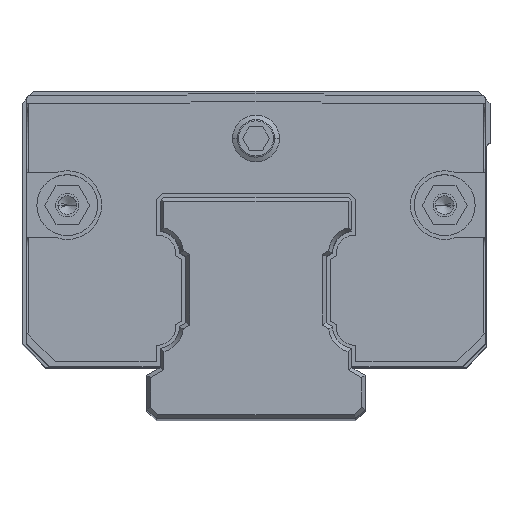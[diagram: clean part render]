
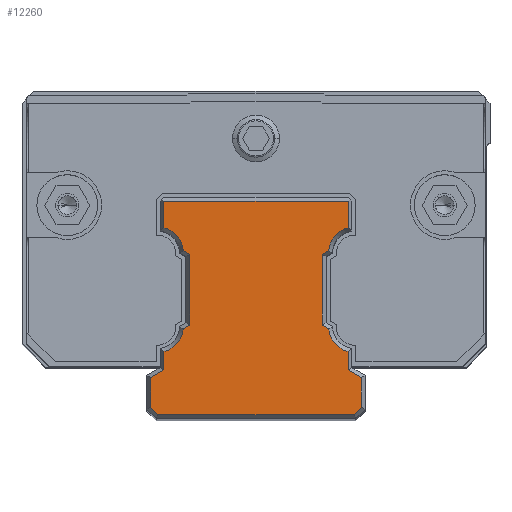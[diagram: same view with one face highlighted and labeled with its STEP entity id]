
A CAD part, top view. The second image highlights one B-rep face of the part: STEP entity #12260.
In plain terms, the highlighted planar face has unit normal (0, 0, 1).
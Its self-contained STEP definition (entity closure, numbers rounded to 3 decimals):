
#11574=DIRECTION('',(-1.,0.,0.));
#11575=VECTOR('',#11574,23.6);
#11576=CARTESIAN_POINT('',(11.8,11.35,78.85));
#11577=LINE('',#11576,#11575);
#11578=DIRECTION('',(0.,1.,0.));
#11579=VECTOR('',#11578,3.409);
#11580=CARTESIAN_POINT('',(11.8,7.941,78.85));
#11581=LINE('',#11580,#11579);
#11582=DIRECTION('',(0.866,0.5,0.));
#11583=VECTOR('',#11582,0.939);
#11584=CARTESIAN_POINT('',(8.5,4.539,78.85));
#11585=LINE('',#11584,#11583);
#11586=DIRECTION('',(0.,1.,0.));
#11587=VECTOR('',#11586,9.077);
#11588=CARTESIAN_POINT('',(8.5,-4.539,78.85));
#11589=LINE('',#11588,#11587);
#11590=DIRECTION('',(-0.866,0.5,0.));
#11591=VECTOR('',#11590,0.939);
#11592=CARTESIAN_POINT('',(9.313,-5.008,
78.85));
#11593=LINE('',#11592,#11591);
#11594=DIRECTION('',(0.,1.,0.));
#11595=VECTOR('',#11594,2.348);
#11596=CARTESIAN_POINT('',(11.8,-10.289,78.85));
#11597=LINE('',#11596,#11595);
#11598=DIRECTION('',(-0.866,0.5,0.));
#11599=VECTOR('',#11598,1.963);
#11600=CARTESIAN_POINT('',(13.5,-11.27,78.85));
#11601=LINE('',#11600,#11599);
#11602=DIRECTION('',(0.,1.,0.));
#11603=VECTOR('',#11602,3.823);
#11604=CARTESIAN_POINT('',(13.5,-15.093,78.85));
#11605=LINE('',#11604,#11603);
#11606=DIRECTION('',(0.707,0.707,0.));
#11607=VECTOR('',#11606,1.283);
#11608=CARTESIAN_POINT('',(12.593,-16.,78.85));
#11609=LINE('',#11608,#11607);
#11610=DIRECTION('',(1.,0.,0.));
#11611=VECTOR('',#11610,25.186);
#11612=CARTESIAN_POINT('',(-12.593,-16.,78.85));
#11613=LINE('',#11612,#11611);
#11614=DIRECTION('',(0.707,-0.707,0.));
#11615=VECTOR('',#11614,1.283);
#11616=CARTESIAN_POINT('',(-13.5,-15.093,78.85));
#11617=LINE('',#11616,#11615);
#11618=DIRECTION('',(0.,-1.,0.));
#11619=VECTOR('',#11618,3.823);
#11620=CARTESIAN_POINT('',(-13.5,-11.27,78.85));
#11621=LINE('',#11620,#11619);
#11622=DIRECTION('',(-0.866,-0.5,0.));
#11623=VECTOR('',#11622,1.963);
#11624=CARTESIAN_POINT('',(-11.8,-10.289,78.85));
#11625=LINE('',#11624,#11623);
#11626=DIRECTION('',(0.,-1.,0.));
#11627=VECTOR('',#11626,2.348);
#11628=CARTESIAN_POINT('',(-11.8,-7.941,
78.85));
#11629=LINE('',#11628,#11627);
#11630=DIRECTION('',(-0.866,-0.5,0.));
#11631=VECTOR('',#11630,0.939);
#11632=CARTESIAN_POINT('',(-8.5,-4.539,78.85));
#11633=LINE('',#11632,#11631);
#11634=DIRECTION('',(0.,-1.,0.));
#11635=VECTOR('',#11634,9.077);
#11636=CARTESIAN_POINT('',(-8.5,4.539,78.85));
#11637=LINE('',#11636,#11635);
#11638=DIRECTION('',(0.866,-0.5,0.));
#11639=VECTOR('',#11638,0.939);
#11640=CARTESIAN_POINT('',(-9.313,5.008,
78.85));
#11641=LINE('',#11640,#11639);
#11642=DIRECTION('',(0.,-1.,0.));
#11643=VECTOR('',#11642,3.409);
#11644=CARTESIAN_POINT('',(-11.8,11.35,78.85));
#11645=LINE('',#11644,#11643);
#11673=CARTESIAN_POINT('',(-12.658,4.692,78.85));
#11674=DIRECTION('',(0.,0.,-1.));
#11675=DIRECTION('',(0.255,0.967,0.));
#11676=AXIS2_PLACEMENT_3D('',#11673,#11674,#11675);
#11733=CARTESIAN_POINT('',(-12.658,-4.692,78.85));
#11734=DIRECTION('',(0.,0.,-1.));
#11735=DIRECTION('',(0.996,-0.094,0.));
#11736=AXIS2_PLACEMENT_3D('',#11733,#11734,#11735);
#11865=CARTESIAN_POINT('',(12.658,-4.692,78.85));
#11866=DIRECTION('',(0.,0.,-1.));
#11867=DIRECTION('',(-0.255,-0.967,0.));
#11868=AXIS2_PLACEMENT_3D('',#11865,#11866,#11867);
#11930=CARTESIAN_POINT('',(12.658,4.692,78.85));
#11931=DIRECTION('',(0.,0.,-1.));
#11932=DIRECTION('',(-0.996,0.094,0.));
#11933=AXIS2_PLACEMENT_3D('',#11930,#11931,#11932);
#12022=CARTESIAN_POINT('',(11.8,11.35,78.85));
#12023=CARTESIAN_POINT('',(-11.8,11.35,78.85));
#12024=VERTEX_POINT('',#12022);
#12025=VERTEX_POINT('',#12023);
#12030=CARTESIAN_POINT('',(11.8,7.941,78.85));
#12031=VERTEX_POINT('',#12030);
#12036=CARTESIAN_POINT('',(8.5,4.539,78.85));
#12037=CARTESIAN_POINT('',(9.313,5.008,78.85));
#12038=VERTEX_POINT('',#12036);
#12039=VERTEX_POINT('',#12037);
#12042=CARTESIAN_POINT('',(8.5,-4.539,78.85));
#12043=VERTEX_POINT('',#12042);
#12044=CARTESIAN_POINT('',(9.313,-5.008,
78.85));
#12045=VERTEX_POINT('',#12044);
#12052=CARTESIAN_POINT('',(11.8,-10.289,78.85));
#12053=CARTESIAN_POINT('',(11.8,-7.941,
78.85));
#12054=VERTEX_POINT('',#12052);
#12055=VERTEX_POINT('',#12053);
#12058=CARTESIAN_POINT('',(13.5,-11.27,78.85));
#12059=VERTEX_POINT('',#12058);
#12062=CARTESIAN_POINT('',(13.5,-15.093,78.85));
#12063=VERTEX_POINT('',#12062);
#12066=CARTESIAN_POINT('',(12.593,-16.,78.85));
#12067=VERTEX_POINT('',#12066);
#12070=CARTESIAN_POINT('',(-12.593,-16.,78.85));
#12071=VERTEX_POINT('',#12070);
#12074=CARTESIAN_POINT('',(-13.5,-15.093,78.85));
#12075=VERTEX_POINT('',#12074);
#12078=CARTESIAN_POINT('',(-13.5,-11.27,78.85));
#12079=VERTEX_POINT('',#12078);
#12082=CARTESIAN_POINT('',(-11.8,-10.289,78.85));
#12083=VERTEX_POINT('',#12082);
#12086=CARTESIAN_POINT('',(-11.8,-7.941,
78.85));
#12087=VERTEX_POINT('',#12086);
#12092=CARTESIAN_POINT('',(-8.5,-4.539,78.85));
#12093=CARTESIAN_POINT('',(-9.313,-5.008,
78.85));
#12094=VERTEX_POINT('',#12092);
#12095=VERTEX_POINT('',#12093);
#12098=CARTESIAN_POINT('',(-8.5,4.539,78.85));
#12099=VERTEX_POINT('',#12098);
#12102=CARTESIAN_POINT('',(-9.313,5.008,
78.85));
#12103=VERTEX_POINT('',#12102);
#12106=CARTESIAN_POINT('',(-11.8,7.941,
78.85));
#12107=VERTEX_POINT('',#12106);
#12211=CARTESIAN_POINT('',(0.,0.,78.85));
#12212=DIRECTION('',(0.,0.,1.));
#12213=DIRECTION('',(1.,0.,0.));
#12214=AXIS2_PLACEMENT_3D('',#12211,#12212,#12213);
#12215=PLANE('',#12214);
#12217=ORIENTED_EDGE('',*,*,#12216,.F.);
#12219=ORIENTED_EDGE('',*,*,#12218,.F.);
#12221=ORIENTED_EDGE('',*,*,#12220,.F.);
#12223=ORIENTED_EDGE('',*,*,#12222,.F.);
#12224=ORIENTED_EDGE('',*,*,#12189,.F.);
#12225=ORIENTED_EDGE('',*,*,#12201,.F.);
#12227=ORIENTED_EDGE('',*,*,#12226,.F.);
#12229=ORIENTED_EDGE('',*,*,#12228,.F.);
#12231=ORIENTED_EDGE('',*,*,#12230,.F.);
#12233=ORIENTED_EDGE('',*,*,#12232,.F.);
#12235=ORIENTED_EDGE('',*,*,#12234,.F.);
#12237=ORIENTED_EDGE('',*,*,#12236,.F.);
#12239=ORIENTED_EDGE('',*,*,#12238,.F.);
#12241=ORIENTED_EDGE('',*,*,#12240,.F.);
#12243=ORIENTED_EDGE('',*,*,#12242,.F.);
#12245=ORIENTED_EDGE('',*,*,#12244,.F.);
#12247=ORIENTED_EDGE('',*,*,#12246,.F.);
#12249=ORIENTED_EDGE('',*,*,#12248,.F.);
#12251=ORIENTED_EDGE('',*,*,#12250,.F.);
#12253=ORIENTED_EDGE('',*,*,#12252,.F.);
#12255=ORIENTED_EDGE('',*,*,#12254,.F.);
#12257=ORIENTED_EDGE('',*,*,#12256,.F.);
#12258=EDGE_LOOP('',(#12217,#12219,#12221,#12223,#12224,#12225,#12227,#12229,
#12231,#12233,#12235,#12237,#12239,#12241,#12243,#12245,#12247,#12249,#12251,
#12253,#12255,#12257));
#12259=FACE_OUTER_BOUND('',#12258,.F.);
#11677=CIRCLE('',#11676,3.36);
#11737=CIRCLE('',#11736,3.36);
#11869=CIRCLE('',#11868,3.36);
#11934=CIRCLE('',#11933,3.36);
#12189=EDGE_CURVE('',#12043,#12038,#11589,.T.);
#12201=EDGE_CURVE('',#12045,#12043,#11593,.T.);
#12216=EDGE_CURVE('',#12024,#12025,#11577,.T.);
#12218=EDGE_CURVE('',#12031,#12024,#11581,.T.);
#12220=EDGE_CURVE('',#12039,#12031,#11934,.T.);
#12222=EDGE_CURVE('',#12038,#12039,#11585,.T.);
#12226=EDGE_CURVE('',#12055,#12045,#11869,.T.);
#12228=EDGE_CURVE('',#12054,#12055,#11597,.T.);
#12230=EDGE_CURVE('',#12059,#12054,#11601,.T.);
#12232=EDGE_CURVE('',#12063,#12059,#11605,.T.);
#12234=EDGE_CURVE('',#12067,#12063,#11609,.T.);
#12236=EDGE_CURVE('',#12071,#12067,#11613,.T.);
#12238=EDGE_CURVE('',#12075,#12071,#11617,.T.);
#12240=EDGE_CURVE('',#12079,#12075,#11621,.T.);
#12242=EDGE_CURVE('',#12083,#12079,#11625,.T.);
#12244=EDGE_CURVE('',#12087,#12083,#11629,.T.);
#12246=EDGE_CURVE('',#12095,#12087,#11737,.T.);
#12248=EDGE_CURVE('',#12094,#12095,#11633,.T.);
#12250=EDGE_CURVE('',#12099,#12094,#11637,.T.);
#12252=EDGE_CURVE('',#12103,#12099,#11641,.T.);
#12254=EDGE_CURVE('',#12107,#12103,#11677,.T.);
#12256=EDGE_CURVE('',#12025,#12107,#11645,.T.);
#12260=ADVANCED_FACE('',(#12259),#12215,.T.);
